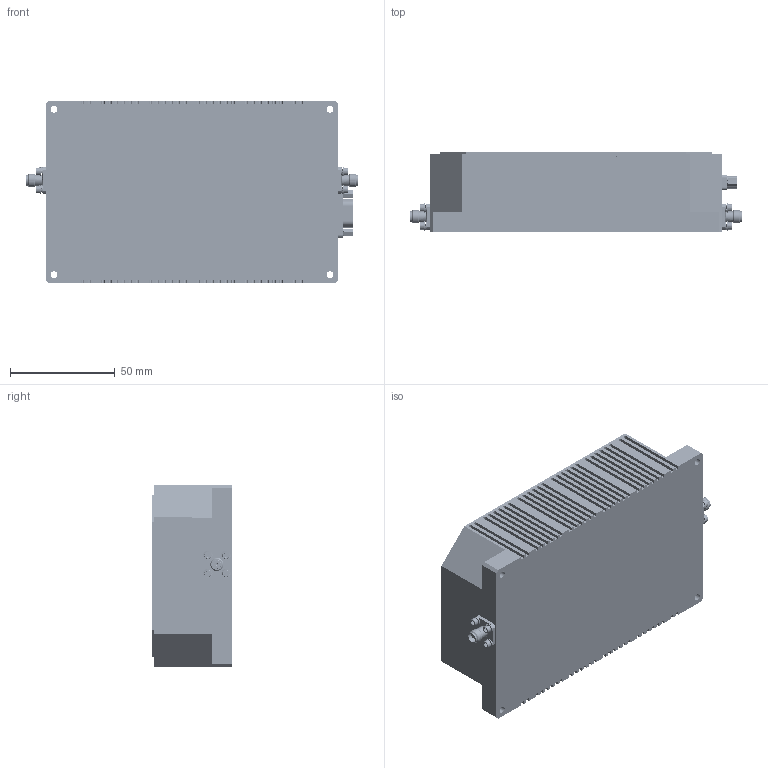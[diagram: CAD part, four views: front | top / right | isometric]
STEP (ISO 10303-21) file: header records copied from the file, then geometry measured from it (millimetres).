
FILE_DESCRIPTION (( 'STEP AP214' ), '1' );
FILE_NAME ('NW-PA-ULSC-20-C01-S01.STEP', '2025-03-28T16:26:29', ( '' ), ( '' ), 'SwSTEP 2.0', 'SolidWorks 2021', '' );
FILE_SCHEMA (( 'AUTOMOTIVE_DESIGN' ));
Length unit declared in the file: inch
Products named in the file (20): 92146A520 (71051) - WASHER, SPLIT-LOCK, SS, #2, .18 OD X .02 THK_92146A520; A6110-2100; NW-PA-ULSC-20-C01-S01; 92196A077 (73399) - SCREW, SHCS, SS, #2-56 X .250L_92196A077; MDM JACK POST LOCK_98449A500; A6034-1540; 90945A705 (9900326) - WASHER, FLAT, SS, #2, .15 OD X .01 THK_90945A705; MDM JACK POST - bill_91075A512; 91771A105 (71591) - SCREW, PFHMS, SS, #2-56 X .375L_91771A105; A6110-1130; FS-SCREW STACK UP 2-56 x .250 long; A6110-2120; 91771A076 (71588) - SCREW, PFHMS, SS, #2-56 X .188L_91771A076; MDM15SH003; A6110-2200; 25_SMA-50-3-15111; MDM JACK POST ASSEMBLY; 91771A085 (71596) - SCREW, PFHMS, SS, #2-56 X .875L_91771A085; A6110-1340; A6110-2220
Assembly tree (70 placements, depth 4):
  NW-PA-ULSC-20-C01-S01
    A6110-2200
      A6110-2220
      25_SMA-50-3-15111  x2
      FS-SCREW STACK UP 2-56 x .250 long  x20
        92196A077 (73399) - SCREW, SHCS, SS, #2-56 X .250L_92196A077
        92146A520 (71051) - WASHER, SPLIT-LOCK, SS, #2, .18 OD X .02 THK_92146A520
        90945A705 (9900326) - WASHER, FLAT, SS, #2, .15 OD X .01 THK_90945A705
      91771A105 (71591) - SCREW, PFHMS, SS, #2-56 X .375L_91771A105  x4
      A6034-1540
      A6110-1340
    A6110-2100
      A6110-2120
      A6110-1130
      91771A076 (71588) - SCREW, PFHMS, SS, #2-56 X .188L_91771A076  x2
      FS-SCREW STACK UP 2-56 x .250 long  x11
        92196A077 (73399) - SCREW, SHCS, SS, #2-56 X .250L_92196A077
        92146A520 (71051) - WASHER, SPLIT-LOCK, SS, #2, .18 OD X .02 THK_92146A520
        90945A705 (9900326) - WASHER, FLAT, SS, #2, .15 OD X .01 THK_90945A705
      MDM15SH003
      MDM JACK POST ASSEMBLY  x2
        MDM JACK POST - bill_91075A512
        MDM JACK POST LOCK_98449A500
    91771A085 (71596) - SCREW, PFHMS, SS, #2-56 X .875L_91771A085  x16
Bounding box: 158.7 x 37.97 x 86.92 mm (x, y, z)
Volume: 164983.7 mm3; surface area: 101434.8 mm2
Topology: 127 solids, 127 shells, 8504 faces, 23122 edges, 15054 vertices
Faces by surface type: cylinder 4483, plane 2256, cone 1046, bspline 719
Entity records: 133508 total; most frequent: CARTESIAN_POINT 57124, ORIENTED_EDGE 16620, DIRECTION 13690, EDGE_CURVE 8310, VERTEX_POINT 5453, LINE 5164, VECTOR 5164, AXIS2_PLACEMENT_3D 4263
